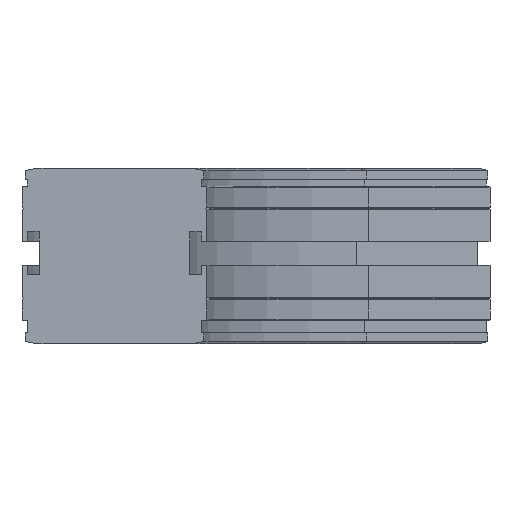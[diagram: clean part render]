
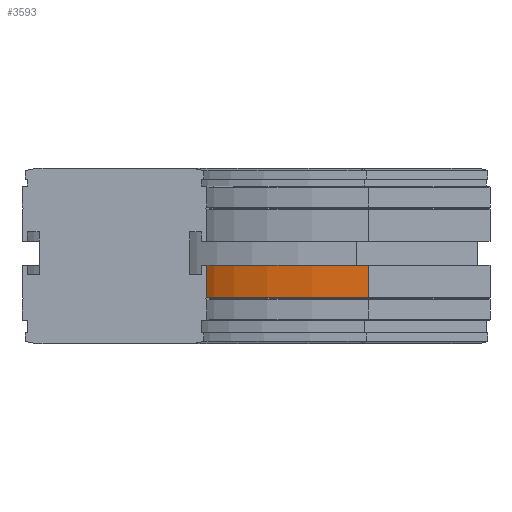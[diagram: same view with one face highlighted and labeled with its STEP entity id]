
A CAD part, left-side view. The second image highlights one B-rep face of the part: STEP entity #3593.
In plain terms, the highlighted cylindrical face has radius 257 mm (diameter 514 mm), a partial arc.
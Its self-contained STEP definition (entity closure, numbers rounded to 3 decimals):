
#2261=CARTESIAN_POINT('',(261.726,-118.274,-60.));
#2262=VERTEX_POINT('',#2261);
#2292=CARTESIAN_POINT('',(261.726,-118.274,-45.));
#2293=VERTEX_POINT('',#2292);
#2300=CARTESIAN_POINT('',(261.726,-118.274,-60.));
#2301=DIRECTION('',(0.0,0.0,1.0));
#2302=VECTOR('',#2301,15.0);
#2303=LINE('',#2300,#2302);
#2304=EDGE_CURVE('',#2262,#2293,#2303,.T.);
#3550=CARTESIAN_POINT('',(80.0,-43.0,-60.));
#3551=VERTEX_POINT('',#3550);
#3552=CARTESIAN_POINT('',(80.0,-300.0,-60.));
#3553=DIRECTION('',(0.0,0.0,-1.0));
#3554=DIRECTION('',(-0.707,-0.707,0.0));
#3555=AXIS2_PLACEMENT_3D('',#3552,#3553,#3554);
#3556=CIRCLE('',#3555,257.0);
#3557=EDGE_CURVE('',#3551,#2262,#3556,.T.);
#3569=CARTESIAN_POINT('',(80.0,-300.0,-52.5));
#3570=DIRECTION('',(0.0,0.0,-1.0));
#3571=DIRECTION('',(-0.707,-0.707,0.0));
#3572=AXIS2_PLACEMENT_3D('',#3569,#3570,#3571);
#3573=CYLINDRICAL_SURFACE('',#3572,257.0);
#3574=ORIENTED_EDGE('',*,*,#2304,.T.);
#3575=CARTESIAN_POINT('',(80.0,-43.0,-45.));
#3576=VERTEX_POINT('',#3575);
#3577=CARTESIAN_POINT('',(80.0,-300.0,-45.));
#3578=DIRECTION('',(0.0,0.0,-1.0));
#3579=DIRECTION('',(-0.707,-0.707,0.0));
#3580=AXIS2_PLACEMENT_3D('',#3577,#3578,#3579);
#3581=CIRCLE('',#3580,257.0);
#3582=EDGE_CURVE('',#3576,#2293,#3581,.T.);
#3583=ORIENTED_EDGE('',*,*,#3582,.F.);
#3584=CARTESIAN_POINT('',(80.0,-43.0,-60.));
#3585=DIRECTION('',(0.0,0.0,1.0));
#3586=VECTOR('',#3585,15.0);
#3587=LINE('',#3584,#3586);
#3588=EDGE_CURVE('',#3551,#3576,#3587,.T.);
#3589=ORIENTED_EDGE('',*,*,#3588,.F.);
#3590=ORIENTED_EDGE('',*,*,#3557,.T.);
#3591=EDGE_LOOP('',(#3574,#3583,#3589,#3590));
#3592=FACE_OUTER_BOUND('',#3591,.T.);
#3593=ADVANCED_FACE('',(#3592),#3573,.F.);
